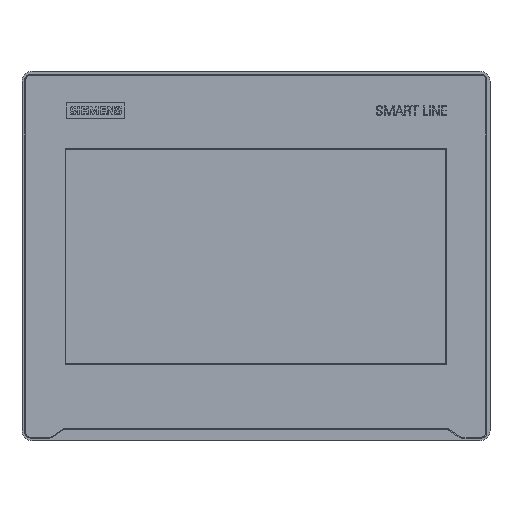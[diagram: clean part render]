
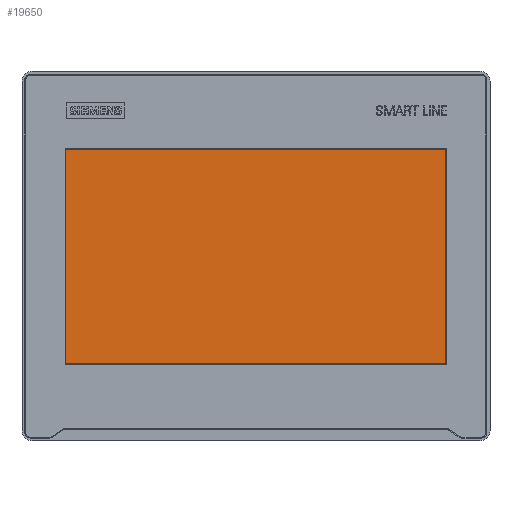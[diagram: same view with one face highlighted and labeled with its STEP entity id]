
A CAD part, top view. The second image highlights one B-rep face of the part: STEP entity #19650.
In plain terms, the highlighted planar face has unit normal (0, 0, 1).
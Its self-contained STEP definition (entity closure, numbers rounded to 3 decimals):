
#10272=FACE_OUTER_BOUND('',#23500,.T.);
#12438=LINE('',#56603,#16064);
#12441=LINE('',#56609,#16067);
#12443=LINE('',#56613,#16069);
#12444=LINE('',#56615,#16070);
#16064=VECTOR('',#47336,1.);
#16067=VECTOR('',#47341,1.);
#16069=VECTOR('',#47345,1.);
#16070=VECTOR('',#47348,1.);
#19650=ADVANCED_FACE('',(#10272),#21511,.T.);
#21511=PLANE('',#44377);
#23500=EDGE_LOOP('',(#26661,#26662,#26663,#26664));
#26661=ORIENTED_EDGE('',*,*,#38905,.T.);
#26662=ORIENTED_EDGE('',*,*,#38908,.T.);
#26663=ORIENTED_EDGE('',*,*,#38910,.T.);
#26664=ORIENTED_EDGE('',*,*,#38911,.T.);
#35487=VERTEX_POINT('',#56602);
#35488=VERTEX_POINT('',#56604);
#35489=VERTEX_POINT('',#56608);
#35490=VERTEX_POINT('',#56612);
#38905=EDGE_CURVE('',#35488,#35487,#12438,.T.);
#38908=EDGE_CURVE('',#35487,#35489,#12441,.T.);
#38910=EDGE_CURVE('',#35489,#35490,#12443,.T.);
#38911=EDGE_CURVE('',#35490,#35488,#12444,.T.);
#44377=AXIS2_PLACEMENT_3D('',#56617,#47351,#47352);
#47336=DIRECTION('',(0.,-1.,0.));
#47341=DIRECTION('',(1.,0.,0.));
#47345=DIRECTION('',(0.,1.,0.));
#47348=DIRECTION('',(-1.,0.,0.));
#47351=DIRECTION('',(0.,0.,1.));
#47352=DIRECTION('',(1.,0.,0.));
#56602=CARTESIAN_POINT('',(25.871,45.363,37.9));
#56603=CARTESIAN_POINT('',(25.871,172.043,37.9));
#56604=CARTESIAN_POINT('',(25.871,172.043,37.9));
#56608=CARTESIAN_POINT('',(249.991,45.363,37.9));
#56609=CARTESIAN_POINT('',(25.871,45.363,37.9));
#56612=CARTESIAN_POINT('',(249.991,172.043,37.9));
#56613=CARTESIAN_POINT('',(249.991,45.363,37.9));
#56615=CARTESIAN_POINT('',(249.991,172.043,37.9));
#56617=CARTESIAN_POINT('',(0.,0.,37.9));
